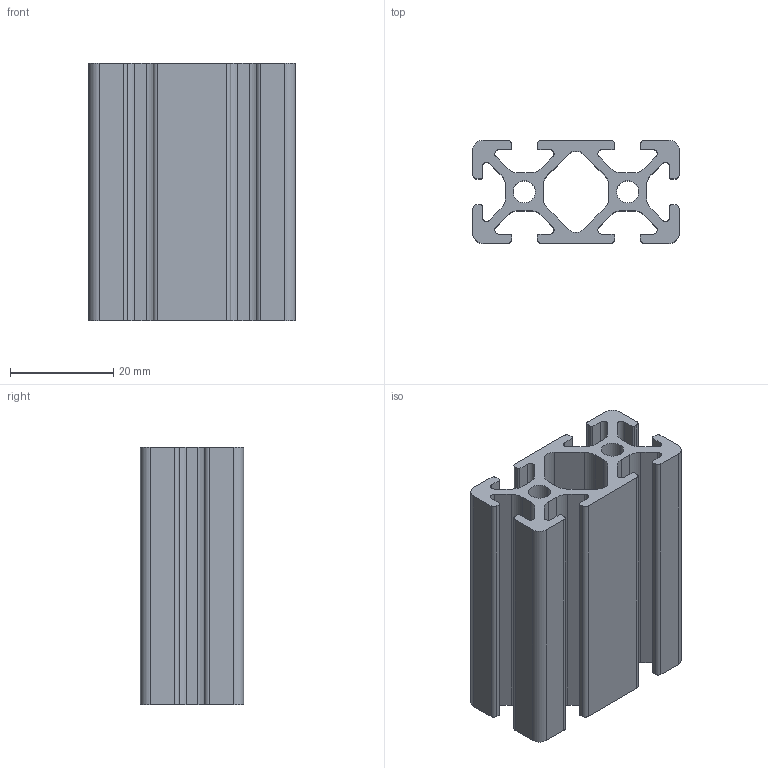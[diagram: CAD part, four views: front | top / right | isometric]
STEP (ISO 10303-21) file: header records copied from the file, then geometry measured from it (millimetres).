
FILE_DESCRIPTION (( 'STEP AP214' ), '1' );
FILE_NAME ('Transept Giltec-P54020.STEP', '2013-07-24T05:35:29', ( 'Windows User' ), ( '' ), 'SwSTEP 2.0', 'SolidWorks 2013', '' );
FILE_SCHEMA (( 'AUTOMOTIVE_DESIGN' ));
Length unit declared in the file: millimetre
Products named in the file (1): Transept Giltec-P54020
Bounding box: 40 x 20 x 50 mm (x, y, z)
Volume: 16587.1 mm3; surface area: 15930.3 mm2
Topology: 1 solids, 1 shells, 126 faces, 372 edges, 248 vertices
Faces by surface type: cylinder 66, plane 60
Entity records: 4294 total; most frequent: DIRECTION 758, CARTESIAN_POINT 747, ORIENTED_EDGE 744, EDGE_CURVE 372, AXIS2_PLACEMENT_3D 259, VERTEX_POINT 248, LINE 240, VECTOR 240
